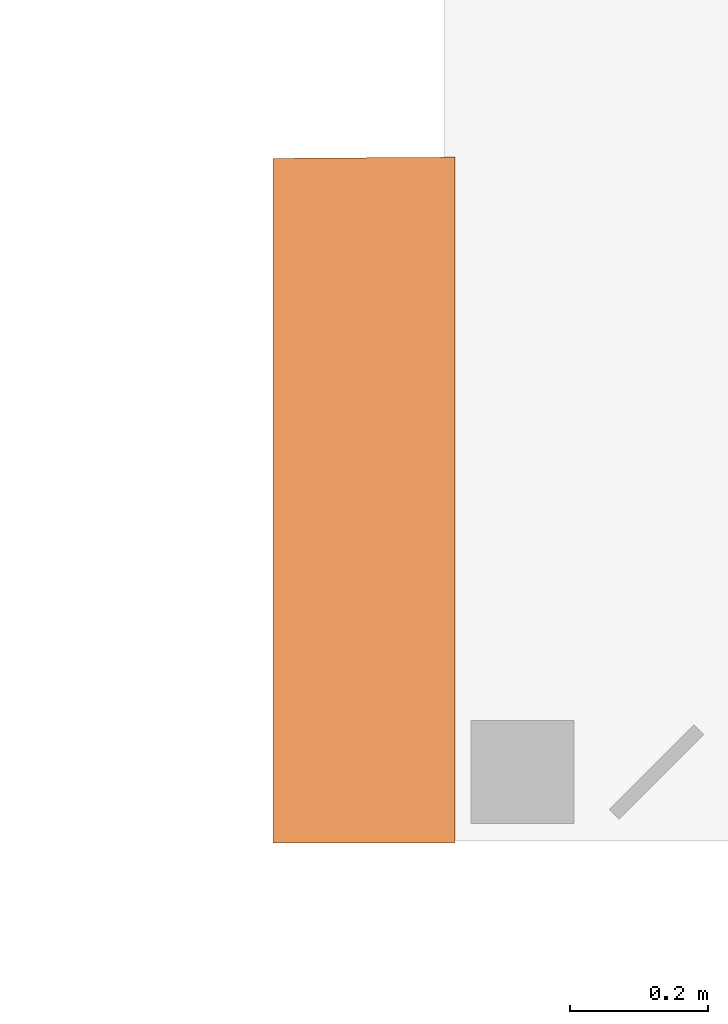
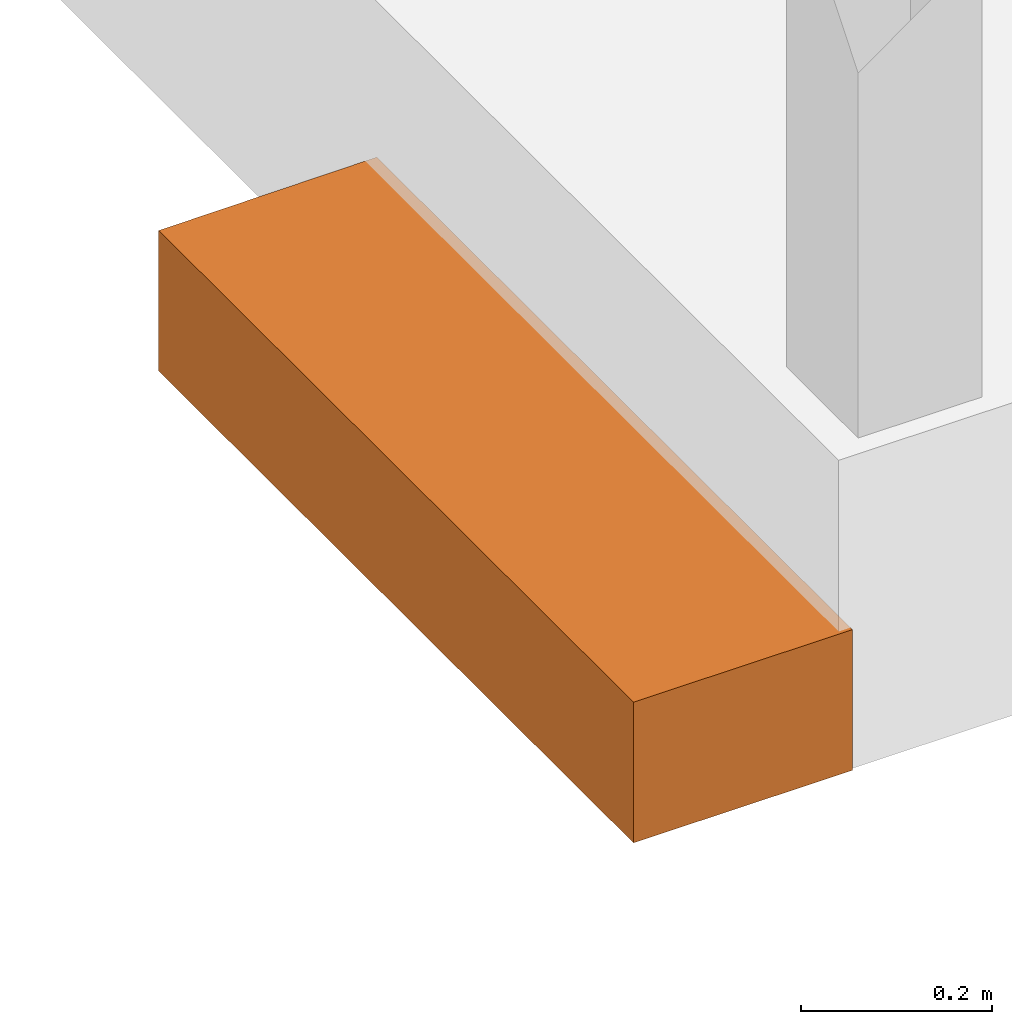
# One storey, part 34 of 34: 1 proxy, 1 element without a shape of its own.
"""IFC2X3 building model written with IfcOpenShell, lengths in metres."""

from ifc_helpers import new_model, entity, si_unit, converted_unit, derived_unit, money_unit, direction, frame, origin_with_axes, place, context, subcontext, project, spatial, faceted_brep, material, type_object, element, aggregate, save


model = new_model("IFC2X3")

# Units and contexts
model_context = context("Model", 3, precision=1e-05, world=origin_with_axes(), true_north=direction((0.0, 1.0)))
body_context = subcontext(model_context, "Body", "Model", "MODEL_VIEW")
ifc_project = project(units=[si_unit("LENGTHUNIT", "METRE"), si_unit("AREAUNIT", "SQUARE_METRE"), si_unit("VOLUMEUNIT", "CUBIC_METRE"), converted_unit("PLANEANGLEUNIT", "DEGREE", entity("IfcPlaneAngleMeasure", 0.0174532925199), si_unit("PLANEANGLEUNIT", "RADIAN"), dimensions=[0, 0, 0, 0, 0, 0, 0]), money_unit("CHF"), converted_unit("TIMEUNIT", "Year", entity("IfcTimeMeasure", 31556926.0), si_unit("TIMEUNIT", "SECOND"), dimensions=[0, 0, 1, 0, 0, 0, 0]), si_unit("MASSUNIT", "GRAM", prefix="KILO"), si_unit("THERMODYNAMICTEMPERATUREUNIT", "DEGREE_CELSIUS"), si_unit("LUMINOUSINTENSITYUNIT", "LUMEN"), si_unit("ENERGYUNIT", "JOULE", prefix="MEGA"), derived_unit("THERMALCONDUCTANCEUNIT", [(si_unit("POWERUNIT", "WATT"), 1), (si_unit("LENGTHUNIT", "METRE"), -1), (si_unit("THERMODYNAMICTEMPERATUREUNIT", "KELVIN"), -1)]), derived_unit("SPECIFICHEATCAPACITYUNIT", [(si_unit("ENERGYUNIT", "JOULE"), 1), (si_unit("MASSUNIT", "GRAM", prefix="KILO"), -1), (si_unit("THERMODYNAMICTEMPERATUREUNIT", "KELVIN"), -1)]), derived_unit("MASSDENSITYUNIT", [(si_unit("MASSUNIT", "GRAM", prefix="KILO"), 1), (si_unit("VOLUMEUNIT", "CUBIC_METRE"), -1)])], contexts=[model_context])

# Site, building, storey
site_placement = place(None, origin_with_axes())
site = spatial("IfcSite", under=ifc_project, at=site_placement, Name="Site", CompositionType="ELEMENT")
building_placement = place(site_placement, origin_with_axes())
building = spatial("IfcBuilding", under=site, at=building_placement, Name="Bâtiment", CompositionType="ELEMENT")
storey_placement = place(building_placement, origin_with_axes())
storey = spatial("IfcBuildingStorey", under=building, at=storey_placement, Name="RDC", CompositionType="ELEMENT", Elevation=-5.32907e-15)

# Proxies
building_element_proxy_type_1 = type_object("IfcBuildingElementProxyType", Name="Type d'escalier", PredefinedType="NOTDEFINED")
proxy_1_placement = place(storey_placement, frame((1665.96729001, 187.497764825, 0.05), z_axis=(0.0, 0.0, 1.0), x_axis=(1.0, 0.0, 0.0)))
proxy_1 = element("IfcBuildingElementProxy", 1, at=proxy_1_placement, inside=storey, type_object=building_element_proxy_type_1, Name="ESCALIER-003")
ifc_material = material(Name="Bois 390117389")
building_element_proxy_type_2 = type_object("IfcBuildingElementProxyType", Name="IfcBuildingElementProxy", PredefinedType="NOTDEFINED")
proxy_2_placement = place(proxy_1_placement, frame((0.0, 0.0, 0.18), z_axis=(0.0, 0.0, 1.0), x_axis=(0.0, 1.0, 0.0)))
proxy_2 = element("IfcBuildingElementProxy", 2, at=proxy_2_placement, type_object=building_element_proxy_type_2, material=ifc_material, Name="MARCHE-012", context=body_context, shape_type="Brep", body=[
    faceted_brep([(-0.5, 0.0, -0.18), (-0.5, 0.0, 0.0), (0.495134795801, 0.0, 0.0), (0.495134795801, 0.0, -0.18), (-0.5, -0.25, -0.18), (-0.5, -0.25, 0.0), (-0.5, -0.265, 0.0), (0.496954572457, -0.265, 0.0), (0.496851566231, -0.25, 0.0), (0.496851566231, -0.25, -0.18), (0.496954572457, -0.265, -0.18), (-0.5, -0.265, -0.18)], [[[0, 1, 2, 3]], [[4, 5, 1, 0]], [[1, 5, 6, 7, 8, 2]], [[3, 2, 8, 9]], [[0, 3, 9, 10, 11, 4]], [[11, 6, 5, 4]], [[10, 7, 6, 11]], [[9, 8, 7, 10]]]),
])
aggregate(proxy_1, [proxy_2])

save(model, "model.ifc")
